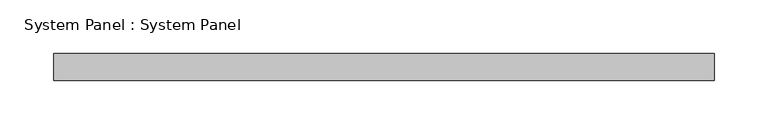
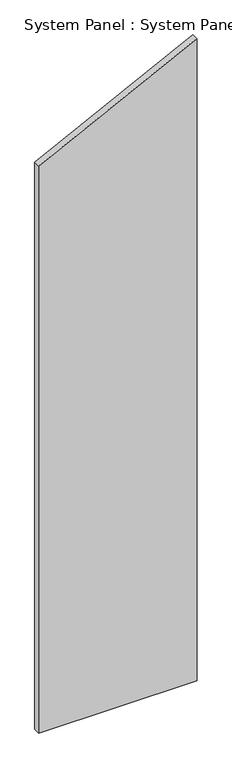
"""IFC4 building model written with IfcOpenShell, lengths in millimetres: plate geometry, System Panel : System Panel."""

from ifc_helpers import new_model, si_unit, frame, origin, place, context, project, spatial, polyline, outline, extrude, source, transform, mapped, element, save


def system_panel_system_panel_c9e3cbe4(model_context):
    return source(origin(), model_context, "Body", "SweptSolid", [
        extrude(outline(polyline([(0.0, 307.975), (2638.425, 307.975), (2330.45, -307.975), (0.0, -307.975), (0.0, 307.975)])), frame((0.0, 19.05, 0.0), z_axis=(0.0, 1.0, 0.0), x_axis=(0.0, 0.0, 1.0)), (0.0, 0.0, 1.0), 25.4),
    ])


if __name__ == "__main__":
    model = new_model("IFC4")
    model_context = context("Model", 3, world=origin())
    ifc_project = project(units=[si_unit("LENGTHUNIT", "METRE", prefix="MILLI")], contexts=[model_context])
    site = spatial("IfcSite", under=ifc_project)
    building = spatial("IfcBuilding", under=site)
    placement = place(None, origin())
    system_panel_system_panel_shape = system_panel_system_panel_c9e3cbe4(model_context)
    element("IfcPlate", 1, ObjectType="System Panel : System Panel", at=placement, inside=building, context=model_context, shape_type="MappedRepresentation", body=[
        mapped(system_panel_system_panel_shape, transform((0.0, 0.0, 0.0), x_axis=(1.0, 0.0, 0.0), y_axis=(0.0, 1.0, 0.0), z_axis=(0.0, 0.0, 1.0))),
    ])
    save(model, "model.ifc")
